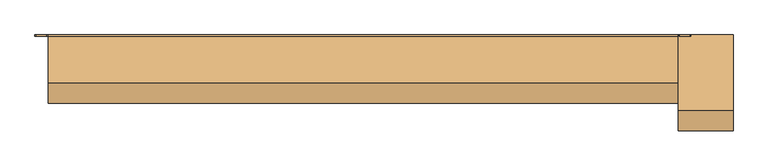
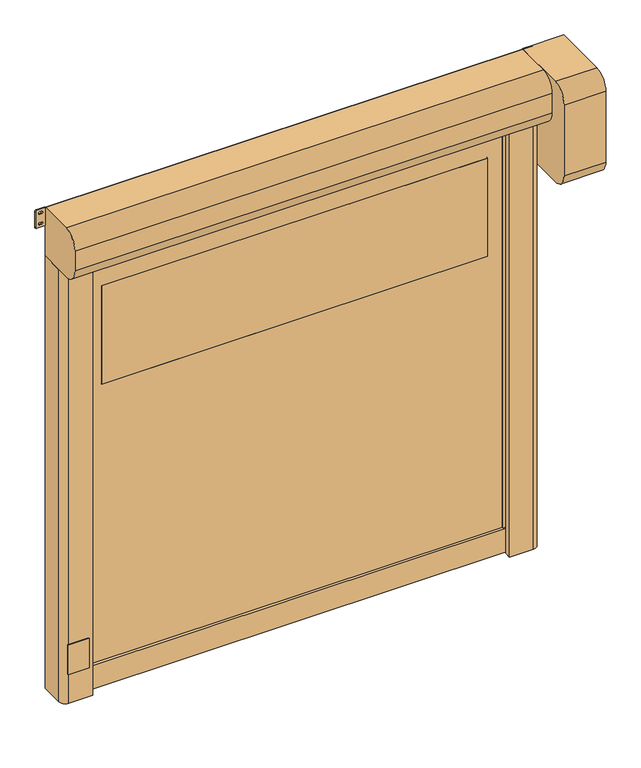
"""IFC4 building model written with IfcOpenShell, lengths in millimetres: door geometry, DO_WPB_Dynamicroll_BMP : Dynamicroll MS150."""

from ifc_helpers import new_model, si_unit, point, frame, frame_2d, origin, origin_with_axes, place, context, project, spatial, polyline, circle_curve, trimmed, segment, composite_curve, outline, extrude, source, transform, mapped, element, save


def door_fc38a23d(model_context):
    return source(origin(), model_context, "Body", "SweptSolid", [
        extrude(outline(composite_curve([segment(trimmed(circle_curve(frame_2d((1416.6666667, 1041.0)), 6.0), [point((1422.6666667, 1041.0))], [point((1410.6666667, 1041.0))], False, "CARTESIAN"), True, "CONTINUOUS"), segment(polyline([(1410.6666667, 1041.0), (1410.6666667, 1059.0)]), True, "CONTINUOUS"), segment(trimmed(circle_curve(frame_2d((1416.6666667, 1059.0)), 6.0), [point((1410.6666667, 1059.0))], [point((1422.6666667, 1059.0))], False, "CARTESIAN"), True, "CONTINUOUS"), segment(polyline([(1422.6666667, 1059.0), (1422.6666667, 1041.0)]), True, "CONTINUOUS")], self_intersect=False)), frame((0.0, -20.0, 0.0), z_axis=(0.0, 1.0, 0.0), x_axis=(0.0, 0.0, 1.0)), (0.0, 0.0, 1.0), 20.0),
        extrude(outline(composite_curve([segment(trimmed(circle_curve(frame_2d((783.3333333, 1041.0)), 6.0), [point((789.3333333, 1041.0))], [point((777.3333333, 1041.0))], False, "CARTESIAN"), True, "CONTINUOUS"), segment(polyline([(777.3333333, 1041.0), (777.3333333, 1059.0)]), True, "CONTINUOUS"), segment(trimmed(circle_curve(frame_2d((783.3333333, 1059.0)), 6.0), [point((777.3333333, 1059.0))], [point((789.3333333, 1059.0))], False, "CARTESIAN"), True, "CONTINUOUS"), segment(polyline([(789.3333333, 1059.0), (789.3333333, 1041.0)]), True, "CONTINUOUS")], self_intersect=False)), frame((0.0, -20.0, 0.0), z_axis=(0.0, 1.0, 0.0), x_axis=(0.0, 0.0, 1.0)), (0.0, 0.0, 1.0), 20.0),
        extrude(outline(composite_curve([segment(trimmed(circle_curve(frame_2d((2050.0, 1041.0)), 6.0), [point((2056.0, 1041.0))], [point((2044.0, 1041.0))], False, "CARTESIAN"), True, "CONTINUOUS"), segment(polyline([(2044.0, 1041.0), (2044.0, 1059.0)]), True, "CONTINUOUS"), segment(trimmed(circle_curve(frame_2d((2050.0, 1059.0)), 6.0), [point((2044.0, 1059.0))], [point((2056.0, 1059.0))], False, "CARTESIAN"), True, "CONTINUOUS"), segment(polyline([(2056.0, 1059.0), (2056.0, 1041.0)]), True, "CONTINUOUS")], self_intersect=False)), frame((0.0, -20.0, 0.0), z_axis=(0.0, 1.0, 0.0), x_axis=(0.0, 0.0, 1.0)), (0.0, 0.0, 1.0), 20.0),
        extrude(outline(composite_curve([segment(trimmed(circle_curve(frame_2d((150.0, 1041.0)), 6.0), [point((156.0, 1041.0))], [point((144.0, 1041.0))], False, "CARTESIAN"), True, "CONTINUOUS"), segment(polyline([(144.0, 1041.0), (144.0, 1059.0)]), True, "CONTINUOUS"), segment(trimmed(circle_curve(frame_2d((150.0, 1059.0)), 6.0), [point((144.0, 1059.0))], [point((156.0, 1059.0))], False, "CARTESIAN"), True, "CONTINUOUS"), segment(polyline([(156.0, 1059.0), (156.0, 1041.0)]), True, "CONTINUOUS")], self_intersect=False)), frame((0.0, -20.0, 0.0), z_axis=(0.0, 1.0, 0.0), x_axis=(0.0, 0.0, 1.0)), (0.0, 0.0, 1.0), 20.0),
        extrude(outline(composite_curve([segment(polyline([(1422.6666667, -1041.0), (1422.6666667, -1059.0)]), True, "CONTINUOUS"), segment(trimmed(circle_curve(frame_2d((1416.6666667, -1059.0)), 6.0), [point((1422.6666667, -1059.0))], [point((1410.6666667, -1059.0))], False, "CARTESIAN"), True, "CONTINUOUS"), segment(polyline([(1410.6666667, -1059.0), (1410.6666667, -1041.0)]), True, "CONTINUOUS"), segment(trimmed(circle_curve(frame_2d((1416.6666667, -1041.0)), 6.0), [point((1410.6666667, -1041.0))], [point((1422.6666667, -1041.0))], False, "CARTESIAN"), True, "CONTINUOUS")], self_intersect=False)), frame((0.0, -20.0, 0.0), z_axis=(0.0, 1.0, 0.0), x_axis=(0.0, 0.0, 1.0)), (0.0, 0.0, 1.0), 20.0),
        extrude(outline(composite_curve([segment(polyline([(789.3333333, -1041.0), (789.3333333, -1059.0)]), True, "CONTINUOUS"), segment(trimmed(circle_curve(frame_2d((783.3333333, -1059.0)), 6.0), [point((789.3333333, -1059.0))], [point((777.3333333, -1059.0))], False, "CARTESIAN"), True, "CONTINUOUS"), segment(polyline([(777.3333333, -1059.0), (777.3333333, -1041.0)]), True, "CONTINUOUS"), segment(trimmed(circle_curve(frame_2d((783.3333333, -1041.0)), 6.0), [point((777.3333333, -1041.0))], [point((789.3333333, -1041.0))], False, "CARTESIAN"), True, "CONTINUOUS")], self_intersect=False)), frame((0.0, -20.0, 0.0), z_axis=(0.0, 1.0, 0.0), x_axis=(0.0, 0.0, 1.0)), (0.0, 0.0, 1.0), 20.0),
        extrude(outline(composite_curve([segment(polyline([(2056.0, -1041.0), (2056.0, -1059.0)]), True, "CONTINUOUS"), segment(trimmed(circle_curve(frame_2d((2050.0, -1059.0)), 6.0), [point((2056.0, -1059.0))], [point((2044.0, -1059.0))], False, "CARTESIAN"), True, "CONTINUOUS"), segment(polyline([(2044.0, -1059.0), (2044.0, -1041.0)]), True, "CONTINUOUS"), segment(trimmed(circle_curve(frame_2d((2050.0, -1041.0)), 6.0), [point((2044.0, -1041.0))], [point((2056.0, -1041.0))], False, "CARTESIAN"), True, "CONTINUOUS")], self_intersect=False)), frame((0.0, -20.0, 0.0), z_axis=(0.0, 1.0, 0.0), x_axis=(0.0, 0.0, 1.0)), (0.0, 0.0, 1.0), 20.0),
        extrude(outline(composite_curve([segment(polyline([(156.0, -1041.0), (156.0, -1059.0)]), True, "CONTINUOUS"), segment(trimmed(circle_curve(frame_2d((150.0, -1059.0)), 6.0), [point((156.0, -1059.0))], [point((144.0, -1059.0))], False, "CARTESIAN"), True, "CONTINUOUS"), segment(polyline([(144.0, -1059.0), (144.0, -1041.0)]), True, "CONTINUOUS"), segment(trimmed(circle_curve(frame_2d((150.0, -1041.0)), 6.0), [point((144.0, -1041.0))], [point((156.0, -1041.0))], False, "CARTESIAN"), True, "CONTINUOUS")], self_intersect=False)), frame((0.0, -20.0, 0.0), z_axis=(0.0, 1.0, 0.0), x_axis=(0.0, 0.0, 1.0)), (0.0, 0.0, 1.0), 20.0),
        extrude(outline(composite_curve([segment(trimmed(circle_curve(frame_2d((1526.0, 929.0)), 1.0), [point((1525.0, 929.0))], [point((1526.0, 930.0))], False, "CARTESIAN"), True, "CONTINUOUS"), segment(polyline([(1526.0, 930.0), (2024.0, 930.0)]), True, "CONTINUOUS"), segment(trimmed(circle_curve(frame_2d((2024.0, 929.0)), 1.0), [point((2024.0, 930.0))], [point((2025.0, 929.0))], False, "CARTESIAN"), True, "CONTINUOUS"), segment(polyline([(2025.0, 929.0), (2025.0, -929.0)]), True, "CONTINUOUS"), segment(trimmed(circle_curve(frame_2d((2024.0, -929.0)), 1.0), [point((2025.0, -929.0))], [point((2024.0, -930.0))], False, "CARTESIAN"), True, "CONTINUOUS"), segment(polyline([(2024.0, -930.0), (1526.0, -930.0)]), True, "CONTINUOUS"), segment(trimmed(circle_curve(frame_2d((1526.0, -929.0)), 1.0), [point((1526.0, -930.0))], [point((1525.0, -929.0))], False, "CARTESIAN"), True, "CONTINUOUS"), segment(polyline([(1525.0, -929.0), (1525.0, 929.0)]), True, "CONTINUOUS")], self_intersect=False)), frame((0.0, -91.0, 0.0), z_axis=(0.0, 1.0, 0.0), x_axis=(0.0, 0.0, 1.0)), (0.0, 0.0, 1.0), 7.0),
        extrude(outline(polyline([(120.0, -1012.0), (120.0, 1012.0), (2325.0, 1012.0), (2325.0, -1012.0), (120.0, -1012.0)]), holes=[composite_curve([segment(trimmed(circle_curve(frame_2d((1526.0, 929.0)), 1.0), [point((1526.0, 930.0))], [point((1525.0, 929.0))], True, "CARTESIAN"), True, "CONTINUOUS"), segment(polyline([(1525.0, 929.0), (1525.0, -929.0)]), True, "CONTINUOUS"), segment(trimmed(circle_curve(frame_2d((1526.0, -929.0)), 1.0), [point((1525.0, -929.0))], [point((1526.0, -930.0))], True, "CARTESIAN"), True, "CONTINUOUS"), segment(polyline([(1526.0, -930.0), (2024.0, -930.0)]), True, "CONTINUOUS"), segment(trimmed(circle_curve(frame_2d((2024.0, -929.0)), 1.0), [point((2024.0, -930.0))], [point((2025.0, -929.0))], True, "CARTESIAN"), True, "CONTINUOUS"), segment(polyline([(2025.0, -929.0), (2025.0, 929.0)]), True, "CONTINUOUS"), segment(trimmed(circle_curve(frame_2d((2024.0, 929.0)), 1.0), [point((2025.0, 929.0))], [point((2024.0, 930.0))], True, "CARTESIAN"), True, "CONTINUOUS"), segment(polyline([(2024.0, 930.0), (1526.0, 930.0)]), True, "CONTINUOUS")], self_intersect=False)]), frame((0.0, -91.0, 0.0), z_axis=(0.0, 1.0, 0.0), x_axis=(0.0, 0.0, 1.0)), (0.0, 0.0, 1.0), 7.0),
        extrude(outline(polyline([(-1012.0, -69.5), (1012.0, -69.5), (1012.0, -105.5), (-1012.0, -105.5), (-1012.0, -69.5)])), origin_with_axes(), (0.0, 0.0, 1.0), 120.0),
        extrude(outline(composite_curve([segment(trimmed(circle_curve(frame_2d((2363.75, 1155.75)), 5.75), [point((2363.75, 1150.0))], [point((2358.0, 1155.75))], False, "CARTESIAN"), True, "CONTINUOUS"), segment(polyline([(2358.0, 1155.75), (2358.0, 1193.25)]), True, "CONTINUOUS"), segment(trimmed(circle_curve(frame_2d((2363.75, 1193.25)), 5.75), [point((2358.0, 1193.25))], [point((2363.75, 1199.0))], False, "CARTESIAN"), True, "CONTINUOUS"), segment(polyline([(2363.75, 1199.0), (2444.25, 1199.0)]), True, "CONTINUOUS"), segment(trimmed(circle_curve(frame_2d((2444.25, 1193.25)), 5.75), [point((2444.25, 1199.0))], [point((2450.0, 1193.25))], False, "CARTESIAN"), True, "CONTINUOUS"), segment(polyline([(2450.0, 1193.25), (2450.0, 1155.75)]), True, "CONTINUOUS"), segment(trimmed(circle_curve(frame_2d((2444.25, 1155.75)), 5.75), [point((2450.0, 1155.75))], [point((2444.25, 1150.0))], False, "CARTESIAN"), True, "CONTINUOUS"), segment(polyline([(2444.25, 1150.0), (2363.75, 1150.0)]), True, "CONTINUOUS")], self_intersect=False), holes=[composite_curve([segment(trimmed(circle_curve(frame_2d((2431.5, 1178.75)), 5.75), [point((2437.25, 1178.75))], [point((2425.75, 1178.75))], True, "CARTESIAN"), True, "CONTINUOUS"), segment(polyline([(2425.75, 1178.75), (2425.75, 1170.25)]), True, "CONTINUOUS"), segment(trimmed(circle_curve(frame_2d((2431.5, 1170.25)), 5.75), [point((2425.75, 1170.25))], [point((2437.25, 1170.25))], True, "CARTESIAN"), True, "CONTINUOUS"), segment(polyline([(2437.25, 1170.25), (2437.25, 1178.75)]), True, "CONTINUOUS")], self_intersect=False), composite_curve([segment(trimmed(circle_curve(frame_2d((2376.5, 1178.75)), 5.75), [point((2382.25, 1178.75))], [point((2370.75, 1178.75))], True, "CARTESIAN"), True, "CONTINUOUS"), segment(polyline([(2370.75, 1178.75), (2370.75, 1170.25)]), True, "CONTINUOUS"), segment(trimmed(circle_curve(frame_2d((2376.5, 1170.25)), 5.75), [point((2370.75, 1170.25))], [point((2382.25, 1170.25))], True, "CARTESIAN"), True, "CONTINUOUS"), segment(polyline([(2382.25, 1170.25), (2382.25, 1178.75)]), True, "CONTINUOUS")], self_intersect=False)]), frame((0.0, -5.0, 0.0), z_axis=(0.0, 1.0, 0.0), x_axis=(0.0, 0.0, 1.0)), (0.0, 0.0, 1.0), 5.0),
        extrude(outline(composite_curve([segment(trimmed(circle_curve(frame_2d((2363.75, -1193.25)), 5.75), [point((2363.75, -1199.0))], [point((2358.0, -1193.25))], False, "CARTESIAN"), True, "CONTINUOUS"), segment(polyline([(2358.0, -1193.25), (2358.0, -1155.75)]), True, "CONTINUOUS"), segment(trimmed(circle_curve(frame_2d((2363.75, -1155.75)), 5.75), [point((2358.0, -1155.75))], [point((2363.75, -1150.0))], False, "CARTESIAN"), True, "CONTINUOUS"), segment(polyline([(2363.75, -1150.0), (2444.25, -1150.0)]), True, "CONTINUOUS"), segment(trimmed(circle_curve(frame_2d((2444.25, -1155.75)), 5.75), [point((2444.25, -1150.0))], [point((2450.0, -1155.75))], False, "CARTESIAN"), True, "CONTINUOUS"), segment(polyline([(2450.0, -1155.75), (2450.0, -1193.25)]), True, "CONTINUOUS"), segment(trimmed(circle_curve(frame_2d((2444.25, -1193.25)), 5.75), [point((2450.0, -1193.25))], [point((2444.25, -1199.0))], False, "CARTESIAN"), True, "CONTINUOUS"), segment(polyline([(2444.25, -1199.0), (2363.75, -1199.0)]), True, "CONTINUOUS")], self_intersect=False), holes=[composite_curve([segment(trimmed(circle_curve(frame_2d((2431.5, -1170.25)), 5.75), [point((2437.25, -1170.25))], [point((2425.75, -1170.25))], True, "CARTESIAN"), True, "CONTINUOUS"), segment(polyline([(2425.75, -1170.25), (2425.75, -1178.75)]), True, "CONTINUOUS"), segment(trimmed(circle_curve(frame_2d((2431.5, -1178.75)), 5.75), [point((2425.75, -1178.75))], [point((2437.25, -1178.75))], True, "CARTESIAN"), True, "CONTINUOUS"), segment(polyline([(2437.25, -1178.75), (2437.25, -1170.25)]), True, "CONTINUOUS")], self_intersect=False), composite_curve([segment(trimmed(circle_curve(frame_2d((2376.5, -1170.25)), 5.75), [point((2382.25, -1170.25))], [point((2370.75, -1170.25))], True, "CARTESIAN"), True, "CONTINUOUS"), segment(polyline([(2370.75, -1170.25), (2370.75, -1178.75)]), True, "CONTINUOUS"), segment(trimmed(circle_curve(frame_2d((2376.5, -1178.75)), 5.75), [point((2370.75, -1178.75))], [point((2382.25, -1178.75))], True, "CARTESIAN"), True, "CONTINUOUS"), segment(polyline([(2382.25, -1178.75), (2382.25, -1170.25)]), True, "CONTINUOUS")], self_intersect=False)]), frame((0.0, -5.0, 0.0), z_axis=(0.0, 1.0, 0.0), x_axis=(0.0, 0.0, 1.0)), (0.0, 0.0, 1.0), 5.0),
        extrude(outline(polyline([(-1125.0, -145.0), (-1025.0, -145.0), (-1025.0, -150.0), (-1125.0, -150.0), (-1125.0, -145.0)])), frame((0.0, 0.0, 150.0), z_axis=(0.0, 0.0, 1.0), x_axis=(1.0, 0.0, 0.0)), (0.0, 0.0, 1.0), 150.0),
        extrude(outline(composite_curve([segment(polyline([(-1150.0, 0.0), (-1015.0, 0.0), (-1015.0, -71.7857143), (-1035.0, -77.5), (-1000.0, -77.5), (-1000.0, -84.0), (-1020.0, -84.0), (-1020.0, -91.0), (-1000.0, -91.0), (-1000.0, -97.5), (-1035.0, -97.5), (-1035.0, -112.5), (-1005.0, -112.5), (-1005.0, -145.0), (-1120.0, -145.0)]), True, "CONTINUOUS"), segment(trimmed(circle_curve(frame_2d((-1120.0, -115.0)), 30.0), [point((-1120.0, -145.0))], [point((-1150.0, -115.0))], False, "CARTESIAN"), True, "CONTINUOUS"), segment(polyline([(-1150.0, -115.0), (-1150.0, 0.0)]), True, "CONTINUOUS")], self_intersect=False)), origin_with_axes(), (0.0, 0.0, 1.0), 2200.0),
        extrude(outline(composite_curve([segment(polyline([(1150.0, 0.0), (1150.0, -115.0)]), True, "CONTINUOUS"), segment(trimmed(circle_curve(frame_2d((1120.0, -115.0)), 30.0), [point((1150.0, -115.0))], [point((1120.0, -145.0))], False, "CARTESIAN"), True, "CONTINUOUS"), segment(polyline([(1120.0, -145.0), (1005.0, -145.0), (1005.0, -112.5), (1035.0, -112.5), (1035.0, -97.5), (1000.0, -97.5), (1000.0, -91.0), (1020.0, -91.0), (1020.0, -84.0), (1000.0, -84.0), (1000.0, -77.5), (1035.0, -77.5), (1015.0, -71.7857143), (1015.0, 0.0), (1150.0, 0.0)]), True, "CONTINUOUS")], self_intersect=False)), origin_with_axes(), (0.0, 0.0, 1.0), 2200.0),
        extrude(outline(composite_curve([segment(polyline([(0.0, 2450.0), (0.0, 1940.0), (-275.0, 1940.0)]), True, "CONTINUOUS"), segment(trimmed(circle_curve(frame_2d((-275.0, 2015.0)), 75.0), [point((-275.0, 1940.0))], [point((-350.0, 2015.0))], False, "CARTESIAN"), True, "CONTINUOUS"), segment(polyline([(-350.0, 2015.0), (-350.0, 2375.0)]), True, "CONTINUOUS"), segment(trimmed(circle_curve(frame_2d((-275.0, 2375.0)), 75.0), [point((-350.0, 2375.0))], [point((-275.0, 2450.0))], False, "CARTESIAN"), True, "CONTINUOUS"), segment(polyline([(-275.0, 2450.0), (0.0, 2450.0)]), True, "CONTINUOUS")], self_intersect=False)), frame((1150.0, 0.0, 0.0), z_axis=(1.0, 0.0, 0.0), x_axis=(0.0, 1.0, 0.0)), (0.0, 0.0, 1.0), 200.0),
        extrude(outline(composite_curve([segment(trimmed(circle_curve(frame_2d((-5.0, 2205.0)), 5.0), [point((0.0, 2205.0))], [point((-5.0, 2200.0))], False, "CARTESIAN"), True, "CONTINUOUS"), segment(polyline([(-5.0, 2200.0), (-175.0, 2200.0)]), True, "CONTINUOUS"), segment(trimmed(circle_curve(frame_2d((-175.0, 2275.0)), 75.0), [point((-175.0, 2200.0))], [point((-250.0, 2275.0))], False, "CARTESIAN"), True, "CONTINUOUS"), segment(polyline([(-250.0, 2275.0), (-250.0, 2375.0)]), True, "CONTINUOUS"), segment(trimmed(circle_curve(frame_2d((-175.0, 2375.0)), 75.0), [point((-250.0, 2375.0))], [point((-175.0, 2450.0))], False, "CARTESIAN"), True, "CONTINUOUS"), segment(polyline([(-175.0, 2450.0), (-5.0, 2450.0)]), True, "CONTINUOUS"), segment(trimmed(circle_curve(frame_2d((-5.0, 2445.0)), 5.0), [point((-5.0, 2450.0))], [point((0.0, 2445.0))], False, "CARTESIAN"), True, "CONTINUOUS"), segment(polyline([(0.0, 2445.0), (0.0, 2205.0)]), True, "CONTINUOUS")], self_intersect=False)), frame((-1150.0, 0.0, 0.0), z_axis=(1.0, 0.0, 0.0), x_axis=(0.0, 1.0, 0.0)), (0.0, 0.0, 1.0), 2300.0),
    ])


if __name__ == "__main__":
    model = new_model("IFC4")
    model_context = context("Model", 3, world=origin())
    ifc_project = project(units=[si_unit("LENGTHUNIT", "METRE", prefix="MILLI")], contexts=[model_context])
    site = spatial("IfcSite", under=ifc_project)
    building = spatial("IfcBuilding", under=site)
    placement = place(None, origin())
    door_shape = door_fc38a23d(model_context)
    element("IfcDoor", 1, ObjectType="DO_WPB_Dynamicroll_BMP : Dynamicroll MS150", at=placement, inside=building, context=model_context, shape_type="MappedRepresentation", body=[
        mapped(door_shape, transform((0.0, 0.0, 0.0), x_axis=(1.0, 0.0, 0.0), y_axis=(0.0, 1.0, 0.0), z_axis=(0.0, 0.0, 1.0))),
    ])
    save(model, "model.ifc")
